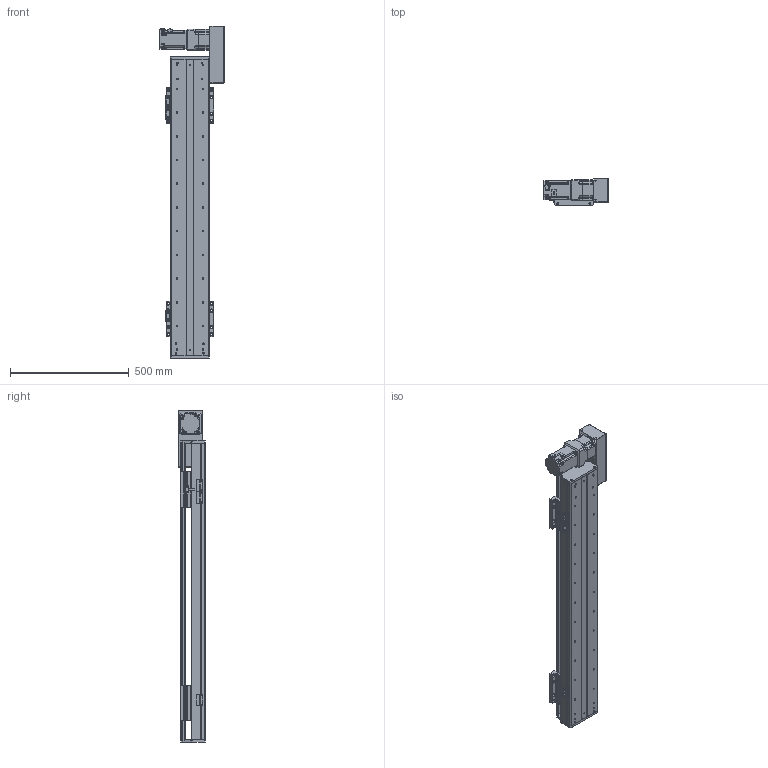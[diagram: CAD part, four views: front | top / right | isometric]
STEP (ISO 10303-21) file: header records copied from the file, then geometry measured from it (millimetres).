
FILE_DESCRIPTION(/* description */ (''),/* implementation_level */ '2;1');
FILE_NAME(/* name */ 'C:\Users\PC\Desktop\3D도면\STEP\DSB165-R7G-W0900-L.stp',/* time_stamp */ '2018-06-25T14:38:26+09:00',/* author */ ('PC'),/* organization */ (''),/* preprocessor_version */ 'ST-DEVELOPER v16.5',/* originating_system */ 'Autodesk Inventor 2017',/* authorisation */ '');
FILE_SCHEMA (('AUTOMOTIVE_DESIGN { 1 0 10303 214 3 1 1 }'));
Length unit declared in the file: millimetre
Products named in the file (12): DSB165-L7G-W0900-R_MIR; DSB165-BASE-L_MIR; hg-kr73__MIR; ab0901-p0401300102_MIR; 11-DSB165 BELT COVER_MIR; 12-DSB165-REAR COVER_MIR; 14-DSB165-FRONT COVER_MIR; DSB165-UP COVER_MIR; DSB165-TABLE(MSB20S)_MIR; DSR165-SENSOR DOG_MIR; pm-y65_step_MIR; SENSOR BRACKET(EE-SX674A)_MIR
Assembly tree (16 placements, depth 2):
  DSB165-L7G-W0900-R_MIR
    DSB165-BASE-L_MIR
    hg-kr73__MIR
    ab0901-p0401300102_MIR
    11-DSB165 BELT COVER_MIR
    12-DSB165-REAR COVER_MIR
    14-DSB165-FRONT COVER_MIR
    DSB165-UP COVER_MIR
    DSB165-TABLE(MSB20S)_MIR  x2
    DSR165-SENSOR DOG_MIR
    pm-y65_step_MIR  x3
    SENSOR BRACKET(EE-SX674A)_MIR  x3
Bounding box: 270 x 115 x 1400 mm (x, y, z)
Volume: 8409918.7 mm3; surface area: 1944561.5 mm2
Topology: 17 solids, 17 shells, 1665 faces, 4474 edges, 2948 vertices
Faces by surface type: plane 921, cylinder 618, cone 114, sphere 8, torus 4
Full cylindrical faces by diameter (mm): 2.459 x20, 3.5 x6, 4.134 x42, 4.5 x18, 5 x27, 5.5 x36, 5.9 x4, 6 x4, 6.6 x14, 6.647 x42, 6.8 x1, 7 x4, 7.6 x4, 8.4 x1, 8.5 x24, 8.7 x1, 9.5 x32, 11 x6, 14 x16, 19 x1, 22 x1, 24 x1, 25 x1, 28 x1, 67 x1, 70 x2, 80 x1
Entity records: 36088 total; most frequent: DIRECTION 6250, CARTESIAN_POINT 6063, ORIENTED_EDGE 5530, EDGE_CURVE 2765, AXIS2_PLACEMENT_3D 2295, VERTEX_POINT 1970, EDGE_LOOP 1727, LINE 1660
